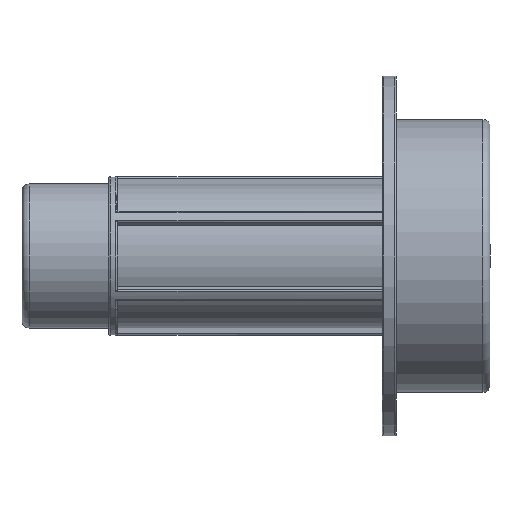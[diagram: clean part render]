
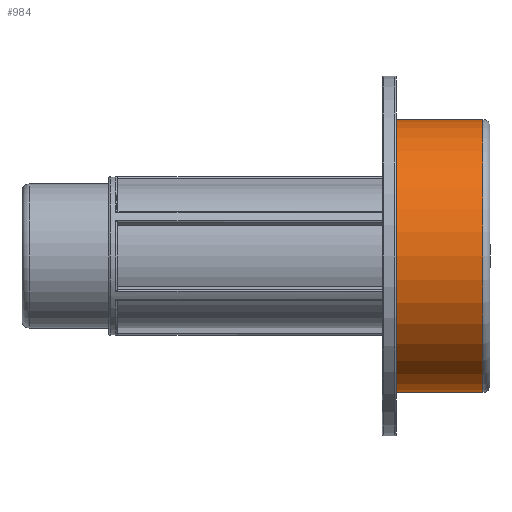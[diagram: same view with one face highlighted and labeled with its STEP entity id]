
A CAD part, front view. The second image highlights one B-rep face of the part: STEP entity #984.
In plain terms, the highlighted cylindrical face has radius 31.5 mm (diameter 63 mm), a full revolution.
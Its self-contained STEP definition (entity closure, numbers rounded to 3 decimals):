
#201=CYLINDRICAL_SURFACE('',#1095,31.5);
#214=FACE_BOUND('',#337,.T.);
#270=FACE_OUTER_BOUND('',#336,.T.);
#336=EDGE_LOOP('',(#907));
#337=EDGE_LOOP('',(#908));
#394=CIRCLE('',#1074,31.5);
#399=CIRCLE('',#1093,31.5);
#492=VERTEX_POINT('',#1831);
#497=VERTEX_POINT('',#1863);
#624=EDGE_CURVE('',#492,#492,#394,.T.);
#637=EDGE_CURVE('',#497,#497,#399,.T.);
#907=ORIENTED_EDGE('',*,*,#624,.T.);
#908=ORIENTED_EDGE('',*,*,#637,.F.);
#984=ADVANCED_FACE('',(#270,#214),#201,.T.);
#1074=AXIS2_PLACEMENT_3D('',#1832,#1322,#1323);
#1093=AXIS2_PLACEMENT_3D('',#1864,#1368,#1369);
#1095=AXIS2_PLACEMENT_3D('',#1867,#1372,#1373);
#1322=DIRECTION('center_axis',(1.,0.,0.));
#1323=DIRECTION('ref_axis',(0.,0.,-1.));
#1368=DIRECTION('center_axis',(1.,0.,0.));
#1369=DIRECTION('ref_axis',(0.,-1.,0.));
#1372=DIRECTION('center_axis',(1.,0.,0.));
#1373=DIRECTION('ref_axis',(0.,1.,0.));
#1831=CARTESIAN_POINT('',(-21.6,31.5,0.));
#1832=CARTESIAN_POINT('Origin',(-21.6,0.,0.));
#1863=CARTESIAN_POINT('',(-1.662,31.5,0.));
#1864=CARTESIAN_POINT('Origin',(-1.662,0.,0.));
#1867=CARTESIAN_POINT('Origin',(-10.8,0.,0.));
